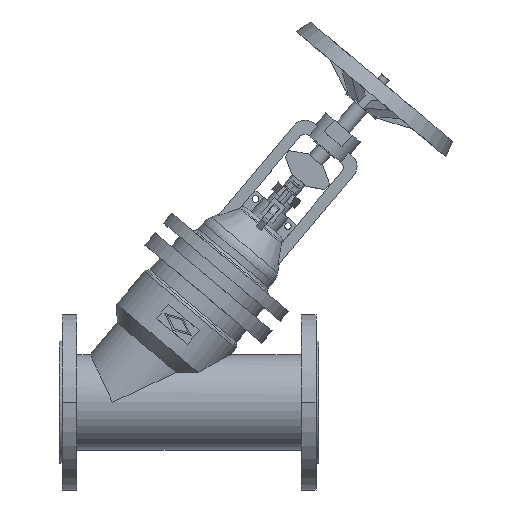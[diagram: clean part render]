
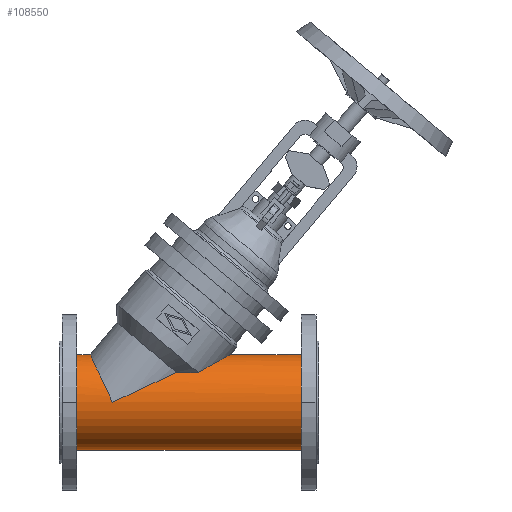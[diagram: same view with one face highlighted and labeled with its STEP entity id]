
A CAD part, top view. The second image highlights one B-rep face of the part: STEP entity #108550.
In plain terms, the highlighted cylindrical face has radius 73.5 mm (diameter 147 mm), a partial arc.
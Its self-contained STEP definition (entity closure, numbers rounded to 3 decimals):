
#2430=CARTESIAN_POINT('',(214.197,45.8,
57.485));
#2440=CARTESIAN_POINT('',(217.487,47.768,
55.918));
#2450=CARTESIAN_POINT('',(220.721,49.666,
54.24));
#2460=CARTESIAN_POINT('',(227.158,53.391,
50.585));
#2470=CARTESIAN_POINT('',(230.353,55.21,
48.596));
#2480=CARTESIAN_POINT('',(237.137,59.031,
43.915));
#2490=CARTESIAN_POINT('',(240.911,61.127,
40.991));
#2500=CARTESIAN_POINT('',(246.248,64.058,
36.089));
#2510=CARTESIAN_POINT('',(247.973,65.001,
34.369));
#2520=CARTESIAN_POINT('',(251.249,66.782,
30.764));
#2530=CARTESIAN_POINT('',(252.799,67.621,
28.88));
#2540=CARTESIAN_POINT('',(257.095,69.938,
22.993));
#2550=CARTESIAN_POINT('',(259.482,71.215,
18.755));
#2560=CARTESIAN_POINT('',(262.82,72.995,
9.749));
#2570=CARTESIAN_POINT('',(263.771,73.5,4.982));
#2580=CARTESIAN_POINT('',(263.771,73.5,-4.982));
#2590=CARTESIAN_POINT('',(262.82,72.995,
-9.749));
#2600=CARTESIAN_POINT('',(259.482,71.215,
-18.755));
#2610=CARTESIAN_POINT('',(257.095,69.938,
-22.993));
#2620=CARTESIAN_POINT('',(252.799,67.621,
-28.88));
#2630=CARTESIAN_POINT('',(251.249,66.782,
-30.764));
#2640=CARTESIAN_POINT('',(247.973,65.001,
-34.369));
#2650=CARTESIAN_POINT('',(246.248,64.058,
-36.089));
#2660=CARTESIAN_POINT('',(240.911,61.127,
-40.991));
#2670=CARTESIAN_POINT('',(237.137,59.031,
-43.915));
#2680=CARTESIAN_POINT('',(230.353,55.21,
-48.596));
#2690=CARTESIAN_POINT('',(227.158,53.391,
-50.585));
#2700=CARTESIAN_POINT('',(220.721,49.666,
-54.24));
#2710=CARTESIAN_POINT('',(217.487,47.768,
-55.918));
#2720=CARTESIAN_POINT('',(214.197,45.8,
-57.485));
#2730=B_SPLINE_CURVE_WITH_KNOTS('',3,(#2430,#2440,#2450,#2460,#2470,
#2480,#2490,#2500,#2510,#2520,#2530,#2540,#2550,#2560,#2570,#2580,#2590,
#2600,#2610,#2620,#2630,#2640,#2650,#2660,#2670,#2680,#2690,#2700,#2710,
#2720),.UNSPECIFIED.,.F.,.F.,(4,2,2,2,2,2,2,2,2,2,2,2,2,2,4),(
305.663,317.453,329.764,344.709,
352.181,359.653,374.598,389.542,
404.487,419.431,426.904,434.376,
449.32,461.632,473.421),.UNSPECIFIED.);
#2740=CARTESIAN_POINT('',(263.771,73.5,
0.));
#2750=VERTEX_POINT('',#2740);
#3120=CARTESIAN_POINT('',(47.726,73.5,
0.));
#3130=VERTEX_POINT('',#3120);
#3160=CARTESIAN_POINT('',(82.,0.,0.));
#3170=DIRECTION('',(0.906,0.423,
0.));
#3180=DIRECTION('',(-0.423,0.906,
0.));
#3190=AXIS2_PLACEMENT_3D('',#3160,#3170,#3180);
#3200=ELLIPSE('',#3190,81.098,73.5);
#5390=CARTESIAN_POINT('',(200.,0.,0.));
#5400=DIRECTION('',(1.,0.,0.));
#5410=DIRECTION('',(0.,1.,0.));
#5420=AXIS2_PLACEMENT_3D('',#5390,#5400,#5410);
#5430=CYLINDRICAL_SURFACE('',#5420,73.5);
#5440=CARTESIAN_POINT('',(200.,-73.5,0.));
#5450=DIRECTION('',(1.,0.,0.));
#5460=VECTOR('',#5450,1.);
#5470=LINE('',#5440,#5460);
#5480=CARTESIAN_POINT('',(27.04,-73.5,0.));
#5490=VERTEX_POINT('',#5480);
#5500=CARTESIAN_POINT('',(372.96,-73.5,0.));
#5510=VERTEX_POINT('',#5500);
#5520=EDGE_CURVE('',#5490,#5510,#5470,.T.);
#5540=CARTESIAN_POINT('',(372.96,0.,0.));
#5550=DIRECTION('',(-1.,0.,0.));
#5560=DIRECTION('',(0.,1.,0.));
#5570=AXIS2_PLACEMENT_3D('',#5540,#5550,#5560);
#5580=CIRCLE('',#5570,73.5);
#5590=CARTESIAN_POINT('',(372.96,73.5,0.));
#5600=VERTEX_POINT('',#5590);
#5630=CARTESIAN_POINT('',(200.,73.5,0.));
#5640=DIRECTION('',(1.,0.,0.));
#5650=VECTOR('',#5640,1.);
#5660=LINE('',#5630,#5650);
#5670=EDGE_CURVE('',#2750,#5600,#5660,.T.);
#5730=CARTESIAN_POINT('',(27.04,73.5,0.));
#5740=VERTEX_POINT('',#5730);
#5750=EDGE_CURVE('',#5740,#3130,#5660,.T.);
#5770=CARTESIAN_POINT('',(27.04,0.,0.));
#5780=DIRECTION('',(-1.,0.,0.));
#5790=DIRECTION('',(0.,1.,0.));
#5800=AXIS2_PLACEMENT_3D('',#5770,#5780,#5790);
#5810=CIRCLE('',#5800,73.5);
#16600=EDGE_CURVE('',#5510,#5600,#5580,.T.);
#22340=EDGE_CURVE('',#5490,#5740,#5810,.T.);
#108040=CARTESIAN_POINT('',(214.197,45.8,
57.485));
#108050=VERTEX_POINT('',#108040);
#108080=CARTESIAN_POINT('',(214.197,45.8,
57.485));
#108090=CARTESIAN_POINT('',(209.249,45.677,
57.584));
#108100=CARTESIAN_POINT('',(204.413,45.612,
57.635));
#108110=CARTESIAN_POINT('',(196.06,45.612,
57.635));
#108120=CARTESIAN_POINT('',(192.235,45.654,
57.602));
#108130=CARTESIAN_POINT('',(185.82,45.815,
57.474));
#108140=CARTESIAN_POINT('',(183.261,45.903,
57.404));
#108150=CARTESIAN_POINT('',(180.69,46.02,
57.31));
#108160=B_SPLINE_CURVE_WITH_KNOTS('',3,(#108080,#108090,#108100,#108110,
#108120,#108130,#108140,#108150),.UNSPECIFIED.,.F.,.F.,(4,2,2,4),(
43.89,57.742,68.948,76.27),
.UNSPECIFIED.);
#108170=CARTESIAN_POINT('',(180.69,46.02,
57.31));
#108180=VERTEX_POINT('',#108170);
#108190=EDGE_CURVE('',#108050,#108180,#108160,.T.);
#108340=ORIENTED_EDGE('',*,*,#5520,.T.);
#108350=ORIENTED_EDGE('',*,*,#22340,.F.);
#108360=ORIENTED_EDGE('',*,*,#5750,.F.);
#108370=CARTESIAN_POINT('',(82.,0.,73.5));
#108380=VERTEX_POINT('',#108370);
#108390=EDGE_CURVE('',#3130,#108380,#3200,.T.);
#108400=ORIENTED_EDGE('',*,*,#108390,.F.);
#108410=CARTESIAN_POINT('',(82.,0.,0.));
#108420=DIRECTION('',(-0.423,0.906,
0.));
#108430=DIRECTION('',(0.906,0.423,
0.));
#108440=AXIS2_PLACEMENT_3D('',#108410,#108420,#108430);
#108450=ELLIPSE('',#108440,173.916,73.5);
#108460=EDGE_CURVE('',#108380,#108180,#108450,.T.);
#108470=ORIENTED_EDGE('',*,*,#108460,.F.);
#108480=ORIENTED_EDGE('',*,*,#108190,.T.);
#108490=EDGE_CURVE('',#108050,#2750,#2730,.T.);
#108500=ORIENTED_EDGE('',*,*,#108490,.F.);
#108510=ORIENTED_EDGE('',*,*,#5670,.F.);
#108520=ORIENTED_EDGE('',*,*,#16600,.T.);
#108530=EDGE_LOOP('',(#108520,#108510,#108500,#108480,#108470,#108400,
#108360,#108350,#108340));
#108540=FACE_OUTER_BOUND('',#108530,.T.);
#108550=ADVANCED_FACE('',(#108540),#5430,.T.);
